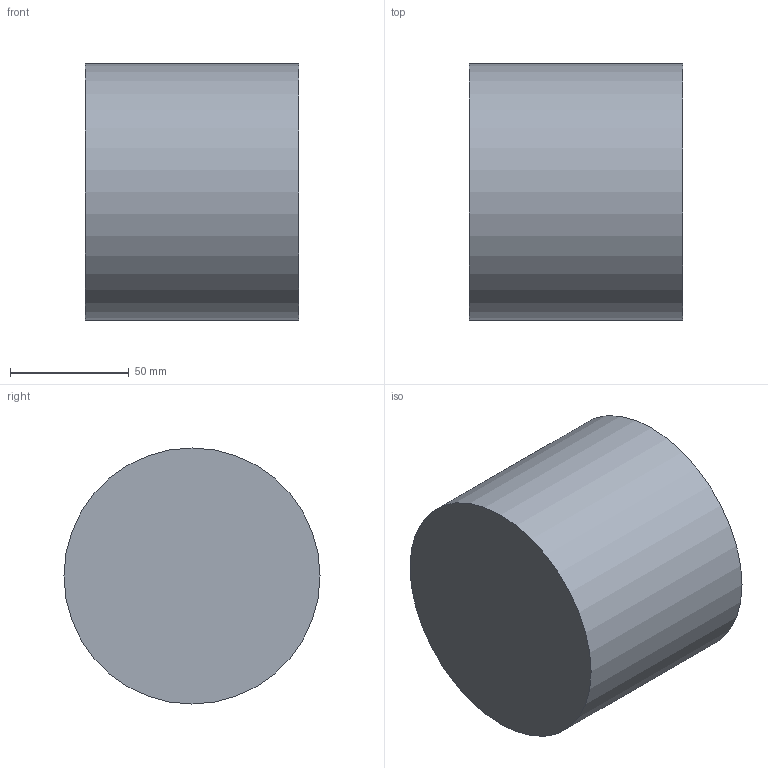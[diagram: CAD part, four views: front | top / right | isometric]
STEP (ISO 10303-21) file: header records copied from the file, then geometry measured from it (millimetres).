
FILE_DESCRIPTION(/* description */ (''),/* implementation_level */ '2;1');
FILE_NAME(/* name */ 'Endkappe 108.0.stp',/* time_stamp */ '2024-03-12T15:58:23+01:00',/* author */ ('peter.csaszar'),/* organization */ (''),/* preprocessor_version */ 'ST-DEVELOPER v20',/* originating_system */ 'Autodesk Inventor 2024',/* authorisation */ '');
FILE_SCHEMA (('AUTOMOTIVE_DESIGN { 1 0 10303 214 3 1 1 }'));
Length unit declared in the file: millimetre
Products named in the file (1): Bauteil1
Bounding box: 90 x 108 x 108 mm (x, y, z)
Volume: 76931.3 mm3; surface area: 77609.9 mm2
Topology: 1 solids, 1 shells, 5 faces, 6 edges, 4 vertices
Faces by surface type: plane 3, cylinder 2
Full cylindrical faces by diameter (mm): 104 x1, 108 x1
Entity records: 147 total; most frequent: DIRECTION 22, CARTESIAN_POINT 16, ORIENTED_EDGE 12, AXIS2_PLACEMENT_3D 10, EDGE_LOOP 6, EDGE_CURVE 6, FACE_OUTER_BOUND 5, ADVANCED_FACE 5
